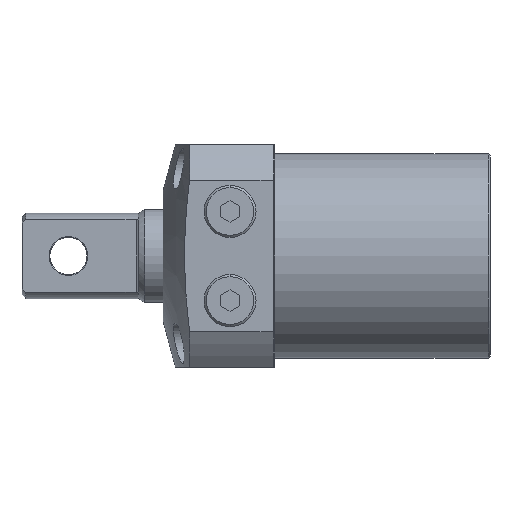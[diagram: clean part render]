
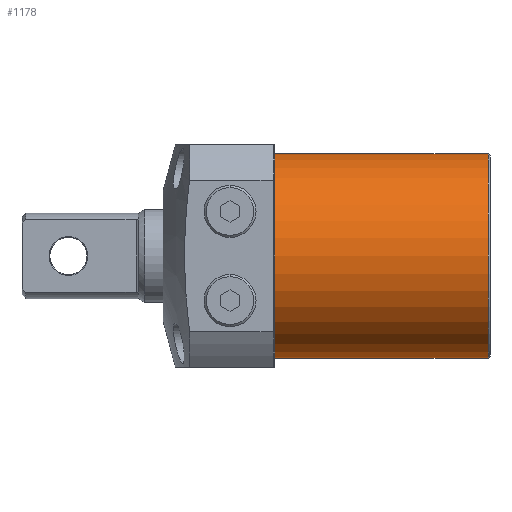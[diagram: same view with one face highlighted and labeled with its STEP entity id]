
A CAD part, left-side view. The second image highlights one B-rep face of the part: STEP entity #1178.
In plain terms, the highlighted cylindrical face has radius 27.5 mm (diameter 55 mm), a partial arc.
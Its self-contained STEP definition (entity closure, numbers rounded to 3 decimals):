
#44 = VERTEX_POINT ( 'NONE', #4954 ) ;
#197 = VERTEX_POINT ( 'NONE', #2507 ) ;
#661 = DIRECTION ( 'NONE',  ( -1., 0., 0. ) ) ;
#670 = CARTESIAN_POINT ( 'NONE',  ( 30., 0., 0. ) ) ;
#736 = CYLINDRICAL_SURFACE ( 'NONE', #4009, 27.5 ) ;
#737 = DIRECTION ( 'NONE',  ( -1., 0., 0. ) ) ;
#983 = LINE ( 'NONE', #3852, #2182 ) ;
#1125 = DIRECTION ( 'NONE',  ( 0., 0., -1. ) ) ;
#1178 = ADVANCED_FACE ( 'NONE', ( #1936 ), #736, .T. ) ;
#1179 = EDGE_CURVE ( 'NONE', #3556, #44, #3244, .T. ) ;
#1191 = VECTOR ( 'NONE', #661, 1000. ) ;
#1193 = VERTEX_POINT ( 'NONE', #3344 ) ;
#1455 = DIRECTION ( 'NONE',  ( -1., 0., 0. ) ) ;
#1544 = EDGE_LOOP ( 'NONE', ( #1871, #2491, #3792, #4759 ) ) ;
#1557 = CARTESIAN_POINT ( 'NONE',  ( 89., 0., 0. ) ) ;
#1836 = CARTESIAN_POINT ( 'NONE',  ( 30., 0., 27.5 ) ) ;
#1871 = ORIENTED_EDGE ( 'NONE', *, *, #2914, .F. ) ;
#1936 = FACE_OUTER_BOUND ( 'NONE', #1544, .T. ) ;
#1949 = DIRECTION ( 'NONE',  ( -1., 0., 0. ) ) ;
#2010 = DIRECTION ( 'NONE',  ( 0., 0., 1. ) ) ;
#2182 = VECTOR ( 'NONE', #737, 1000. ) ;
#2225 = LINE ( 'NONE', #3772, #1191 ) ;
#2491 = ORIENTED_EDGE ( 'NONE', *, *, #5386, .T. ) ;
#2507 = CARTESIAN_POINT ( 'NONE',  ( 87.5, 0., 27.5 ) ) ;
#2914 = EDGE_CURVE ( 'NONE', #1193, #44, #983, .T. ) ;
#3244 = CIRCLE ( 'NONE', #3706, 27.5 ) ;
#3344 = CARTESIAN_POINT ( 'NONE',  ( 87.5, 0., -27.5 ) ) ;
#3556 = VERTEX_POINT ( 'NONE', #1836 ) ;
#3685 = EDGE_CURVE ( 'NONE', #197, #3556, #2225, .T. ) ;
#3706 = AXIS2_PLACEMENT_3D ( 'NONE', #670, #3784, #1125 ) ;
#3772 = CARTESIAN_POINT ( 'NONE',  ( 89., 0., 27.5 ) ) ;
#3784 = DIRECTION ( 'NONE',  ( 1., 0., 0. ) ) ;
#3792 = ORIENTED_EDGE ( 'NONE', *, *, #3685, .T. ) ;
#3852 = CARTESIAN_POINT ( 'NONE',  ( 89., 0., -27.5 ) ) ;
#4009 = AXIS2_PLACEMENT_3D ( 'NONE', #1557, #1949, #2010 ) ;
#4124 = CARTESIAN_POINT ( 'NONE',  ( 87.5, 0., 0. ) ) ;
#4137 = AXIS2_PLACEMENT_3D ( 'NONE', #4124, #1455, #4562 ) ;
#4562 = DIRECTION ( 'NONE',  ( 0., 0., -1. ) ) ;
#4759 = ORIENTED_EDGE ( 'NONE', *, *, #1179, .T. ) ;
#4925 = CIRCLE ( 'NONE', #4137, 27.5 ) ;
#4954 = CARTESIAN_POINT ( 'NONE',  ( 30., 0., -27.5 ) ) ;
#5386 = EDGE_CURVE ( 'NONE', #1193, #197, #4925, .T. ) ;
